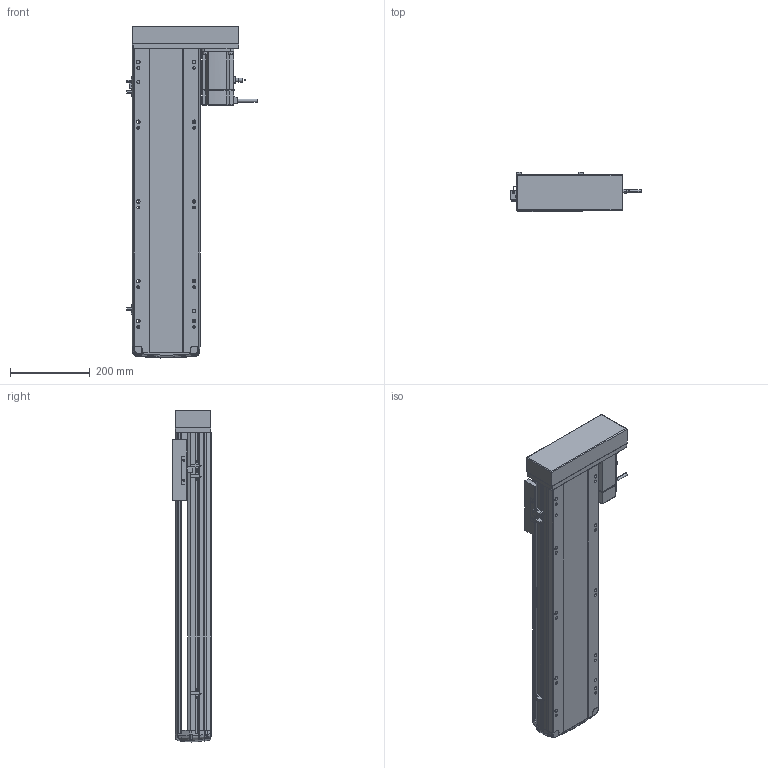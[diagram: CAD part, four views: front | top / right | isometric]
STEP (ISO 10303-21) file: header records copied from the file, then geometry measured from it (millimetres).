
FILE_DESCRIPTION (( 'STEP AP214' ), '1' );
FILE_NAME ('RTH17-XX-550-L-M75-C4.STEP', '2025-10-24T10:33:02', ( '' ), ( '' ), 'SwSTEP 2.0', 'SolidWorks 2018', '' );
FILE_SCHEMA (( 'AUTOMOTIVE_DESIGN' ));
Length unit declared in the file: millimetre
Products named in the file (10): N_RTH17-GY-001P^RTH17-XX-XX-L-M75-C4（方程式）; RTH17-XX-550-L-M75-C4; N_RTH17-M-011底座^RTH17-XX-XX-L-M75-C4（方程式）; N_RTH17-L-018盖子^RTH17-XX-XX-L-M75-C4（方程式）; N_RTH17-E-004丝杆螺母连接座^RTH17-XX-XX-L-M75-C4（方程式）; N_RTH17-L-008-P75电机安装板左转折^RTH17-XX-XX-L-M75-C4（方程式）; N_M75^RTH17-XX-XX-L-M75-C4（方程式）; N_RTH17-M-007上盖^RTH17-XX-XX-L-M75-C4（方程式）; N_RTH-L-012 感应片(外置)^RTH17-XX-XX-L-M75-C4（方程式）; N_OMRON EE-SX672 換覜ん^RTH17-XX-XX-L-M75-C4ㄗ源最宒ㄘ
Assembly tree (11 placements, depth 2):
  RTH17-XX-550-L-M75-C4
    N_RTH17-M-011底座^RTH17-XX-XX-L-M75-C4（方程式）
    N_RTH17-M-007上盖^RTH17-XX-XX-L-M75-C4（方程式）
    N_M75^RTH17-XX-XX-L-M75-C4（方程式）
    N_OMRON EE-SX672 換覜ん^RTH17-XX-XX-L-M75-C4ㄗ源最宒ㄘ  x3
    N_RTH-L-012 感应片(外置)^RTH17-XX-XX-L-M75-C4（方程式）
    N_RTH17-L-008-P75电机安装板左转折^RTH17-XX-XX-L-M75-C4（方程式）
    N_RTH17-L-018盖子^RTH17-XX-XX-L-M75-C4（方程式）
    N_RTH17-E-004丝杆螺母连接座^RTH17-XX-XX-L-M75-C4（方程式）
    N_RTH17-GY-001P^RTH17-XX-XX-L-M75-C4（方程式）
Bounding box: 326.7 x 97 x 832.99 mm (x, y, z)
Volume: 8138637.8 mm3; surface area: 1022666.8 mm2
Topology: 13 solids, 15 shells, 1741 faces, 4781 edges, 3094 vertices
Faces by surface type: plane 831, cylinder 496, bspline 377, cone 28, torus 9
Entity records: 50545 total; most frequent: CARTESIAN_POINT 20241, ORIENTED_EDGE 6586, DIRECTION 5473, EDGE_CURVE 3297, VERTEX_POINT 2130, AXIS2_PLACEMENT_3D 1837, VECTOR 1799, LINE 1799
